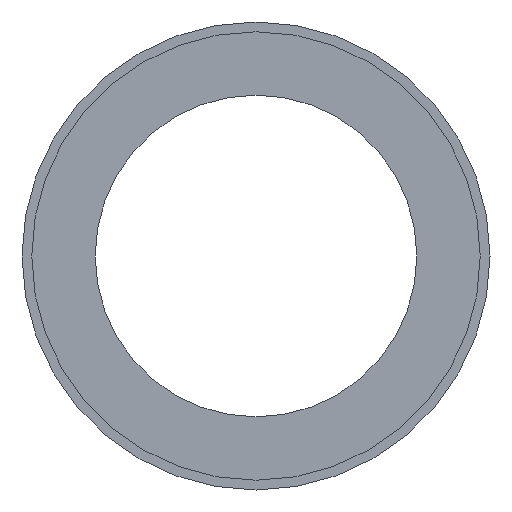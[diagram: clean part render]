
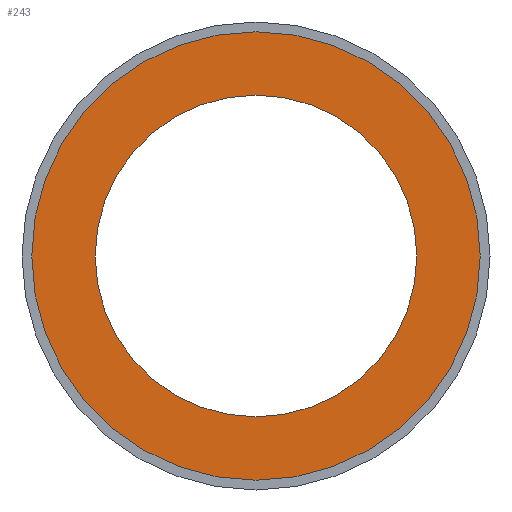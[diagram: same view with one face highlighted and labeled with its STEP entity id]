
A CAD part, front view. The second image highlights one B-rep face of the part: STEP entity #243.
In plain terms, the highlighted planar face has unit normal (0, -1, 0).
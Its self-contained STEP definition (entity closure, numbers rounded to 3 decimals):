
#4 = EDGE_CURVE ( 'NONE', #213, #12, #206, .T. ) ;
#12 = VERTEX_POINT ( 'NONE', #246 ) ;
#14 = CARTESIAN_POINT ( 'NONE',  ( 0., 2.67, 0. ) ) ;
#18 = FACE_OUTER_BOUND ( 'NONE', #157, .T. ) ;
#33 = EDGE_LOOP ( 'NONE', ( #233, #87 ) ) ;
#40 = EDGE_CURVE ( 'NONE', #66, #295, #135, .T. ) ;
#41 = DIRECTION ( 'NONE',  ( 0., 0., -1. ) ) ;
#50 = CARTESIAN_POINT ( 'NONE',  ( 16.5, 2.67, 0. ) ) ;
#66 = VERTEX_POINT ( 'NONE', #144 ) ;
#68 = CARTESIAN_POINT ( 'NONE',  ( 0., 2.67, 16.5 ) ) ;
#75 = DIRECTION ( 'NONE',  ( 0., 0., -1. ) ) ;
#84 = ORIENTED_EDGE ( 'NONE', *, *, #40, .T. ) ;
#87 = ORIENTED_EDGE ( 'NONE', *, *, #4, .F. ) ;
#102 = CARTESIAN_POINT ( 'NONE',  ( 0., 2.67, -23. ) ) ;
#115 = AXIS2_PLACEMENT_3D ( 'NONE', #269, #241, #41 ) ;
#135 = CIRCLE ( 'NONE', #158, 23. ) ;
#144 = CARTESIAN_POINT ( 'NONE',  ( 0., 2.67, 23. ) ) ;
#157 = EDGE_LOOP ( 'NONE', ( #309, #84 ) ) ;
#158 = AXIS2_PLACEMENT_3D ( 'NONE', #252, #367, #75 ) ;
#169 = AXIS2_PLACEMENT_3D ( 'NONE', #50, #365, #362 ) ;
#190 = EDGE_CURVE ( 'NONE', #12, #213, #312, .T. ) ;
#206 = CIRCLE ( 'NONE', #335, 16.5 ) ;
#210 = CARTESIAN_POINT ( 'NONE',  ( 0., 2.67, 0. ) ) ;
#213 = VERTEX_POINT ( 'NONE', #68 ) ;
#215 = EDGE_CURVE ( 'NONE', #295, #66, #279, .T. ) ;
#233 = ORIENTED_EDGE ( 'NONE', *, *, #190, .F. ) ;
#241 = DIRECTION ( 'NONE',  ( 0., -1., 0. ) ) ;
#243 = ADVANCED_FACE ( 'NONE', ( #18, #343 ), #340, .T. ) ;
#246 = CARTESIAN_POINT ( 'NONE',  ( 0., 2.67, -16.5 ) ) ;
#252 = CARTESIAN_POINT ( 'NONE',  ( 0., 2.67, 0. ) ) ;
#269 = CARTESIAN_POINT ( 'NONE',  ( 0., 2.67, 0. ) ) ;
#279 = CIRCLE ( 'NONE', #115, 23. ) ;
#295 = VERTEX_POINT ( 'NONE', #102 ) ;
#299 = DIRECTION ( 'NONE',  ( 0., -1., 0. ) ) ;
#301 = DIRECTION ( 'NONE',  ( 0., -1., 0. ) ) ;
#304 = DIRECTION ( 'NONE',  ( 0., 0., -1. ) ) ;
#309 = ORIENTED_EDGE ( 'NONE', *, *, #215, .T. ) ;
#312 = CIRCLE ( 'NONE', #371, 16.5 ) ;
#335 = AXIS2_PLACEMENT_3D ( 'NONE', #14, #301, #304 ) ;
#340 = PLANE ( 'NONE',  #169 ) ;
#343 = FACE_BOUND ( 'NONE', #33, .T. ) ;
#356 = DIRECTION ( 'NONE',  ( 0., 0., -1. ) ) ;
#362 = DIRECTION ( 'NONE',  ( 0., 0., -1. ) ) ;
#365 = DIRECTION ( 'NONE',  ( 0., -1., 0. ) ) ;
#367 = DIRECTION ( 'NONE',  ( 0., -1., 0. ) ) ;
#371 = AXIS2_PLACEMENT_3D ( 'NONE', #210, #299, #356 ) ;
